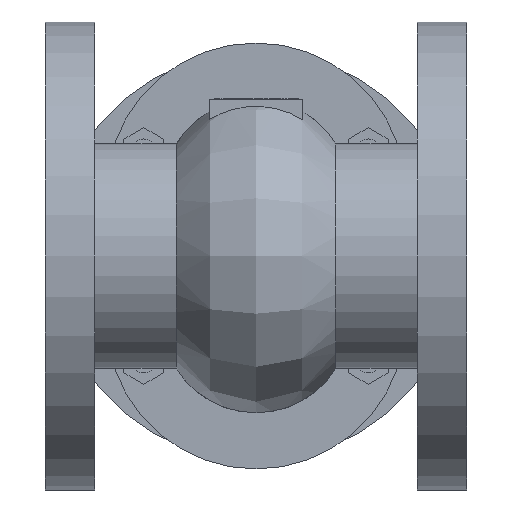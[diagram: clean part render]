
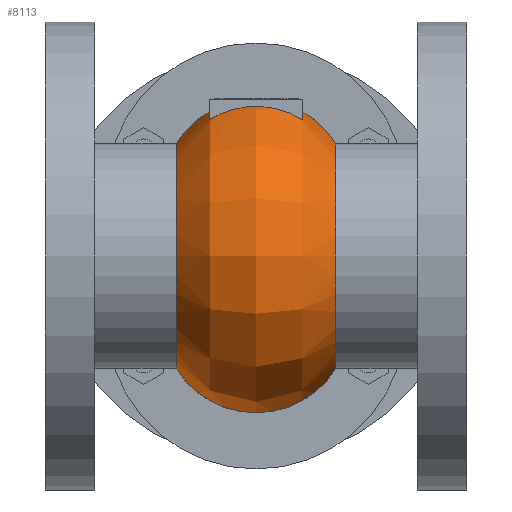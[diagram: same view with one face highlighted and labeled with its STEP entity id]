
A CAD part, front view. The second image highlights one B-rep face of the part: STEP entity #8113.
In plain terms, the highlighted free-form (B-spline) face has degree [2, 2] with [5, 5] control points.
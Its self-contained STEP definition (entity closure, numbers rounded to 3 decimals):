
#18=(
BOUNDED_SURFACE()
B_SPLINE_SURFACE(2,2,((#14042,#14043,#14044,#14045,#14046),(#14047,#14048,
#14049,#14050,#14051),(#14052,#14053,#14054,#14055,#14056),(#14057,#14058,
#14059,#14060,#14061),(#14062,#14063,#14064,#14065,#14066)),
 .UNSPECIFIED.,.F.,.F.,.F.)
B_SPLINE_SURFACE_WITH_KNOTS((3,2,3),(3,2,3),(-1.018,0.,1.018),
(-3.142,-1.571,0.),.UNSPECIFIED.)
GEOMETRIC_REPRESENTATION_ITEM()
RATIONAL_B_SPLINE_SURFACE(((1.,0.707,1.,0.707,1.),
(0.873,0.617,0.873,0.617,
0.873),(1.,0.707,1.,0.707,1.),(0.873,
0.617,0.873,0.617,0.873),
(1.,0.707,1.,0.707,1.)))
REPRESENTATION_ITEM('')
SURFACE()
);
#383=B_SPLINE_CURVE_WITH_KNOTS('',3,(#12908,#12909,#12910,#12911,#12912,
#12913,#12914,#12915,#12916,#12917,#12918,#12919,#12920,#12921),
 .UNSPECIFIED.,.F.,.F.,(4,2,2,2,2,2,4),(22.367,22.926,
23.641,24.356,25.071,25.785,26.344),
 .UNSPECIFIED.);
#1039=FACE_OUTER_BOUND('',#1513,.T.);
#1513=EDGE_LOOP('',(#7030,#7031,#7032,#7033,#7034,#7035,#7036,#7037,#7038,
#7039));
#3074=CIRCLE('',#8329,61.641);
#3076=CIRCLE('',#8334,61.641);
#3077=CIRCLE('',#8337,40.);
#3079=CIRCLE('',#8339,40.);
#3170=CIRCLE('',#8625,48.);
#3171=CIRCLE('',#8626,48.);
#3172=CIRCLE('',#8627,40.);
#3173=CIRCLE('',#8628,48.);
#3174=CIRCLE('',#8629,48.);
#3576=VERTEX_POINT('',#12901);
#3577=VERTEX_POINT('',#12903);
#3578=VERTEX_POINT('',#12907);
#3580=VERTEX_POINT('',#12928);
#3581=VERTEX_POINT('',#12933);
#3586=VERTEX_POINT('',#12952);
#3893=VERTEX_POINT('',#14067);
#3894=VERTEX_POINT('',#14069);
#3895=VERTEX_POINT('',#14071);
#3896=VERTEX_POINT('',#14073);
#4486=EDGE_CURVE('',#3577,#3576,#3074,.T.);
#4488=EDGE_CURVE('',#3578,#3577,#383,.T.);
#4493=EDGE_CURVE('',#3580,#3578,#3076,.T.);
#4494=EDGE_CURVE('',#3580,#3581,#3077,.T.);
#4500=EDGE_CURVE('',#3586,#3576,#3079,.T.);
#4964=EDGE_CURVE('',#3893,#3586,#3170,.T.);
#4965=EDGE_CURVE('',#3894,#3893,#3171,.T.);
#4966=EDGE_CURVE('',#3895,#3894,#3172,.T.);
#4967=EDGE_CURVE('',#3896,#3895,#3173,.T.);
#4968=EDGE_CURVE('',#3581,#3896,#3174,.T.);
#7030=ORIENTED_EDGE('',*,*,#4486,.T.);
#7031=ORIENTED_EDGE('',*,*,#4500,.F.);
#7032=ORIENTED_EDGE('',*,*,#4964,.F.);
#7033=ORIENTED_EDGE('',*,*,#4965,.F.);
#7034=ORIENTED_EDGE('',*,*,#4966,.F.);
#7035=ORIENTED_EDGE('',*,*,#4967,.F.);
#7036=ORIENTED_EDGE('',*,*,#4968,.F.);
#7037=ORIENTED_EDGE('',*,*,#4494,.F.);
#7038=ORIENTED_EDGE('',*,*,#4493,.T.);
#7039=ORIENTED_EDGE('',*,*,#4488,.T.);
#8113=ADVANCED_FACE('',(#1039),#18,.F.);
#8329=AXIS2_PLACEMENT_3D('',#12904,#9364,#9365);
#8334=AXIS2_PLACEMENT_3D('',#12930,#9378,#9379);
#8337=AXIS2_PLACEMENT_3D('',#12934,#9384,#9385);
#8339=AXIS2_PLACEMENT_3D('',#12963,#9390,#9391);
#8625=AXIS2_PLACEMENT_3D('',#14068,#10307,#10308);
#8626=AXIS2_PLACEMENT_3D('',#14070,#10309,#10310);
#8627=AXIS2_PLACEMENT_3D('',#14072,#10311,#10312);
#8628=AXIS2_PLACEMENT_3D('',#14074,#10313,#10314);
#8629=AXIS2_PLACEMENT_3D('',#14075,#10315,#10316);
#9364=DIRECTION('center_axis',(-1.,0.,0.));
#9365=DIRECTION('ref_axis',(0.,0.,-1.));
#9378=DIRECTION('center_axis',(1.,0.,0.));
#9379=DIRECTION('ref_axis',(0.,0.,-1.));
#9384=DIRECTION('center_axis',(0.,1.,0.));
#9385=DIRECTION('ref_axis',(1.,0.,0.));
#9390=DIRECTION('center_axis',(0.,1.,0.));
#9391=DIRECTION('ref_axis',(1.,0.,0.));
#10307=DIRECTION('center_axis',(-1.,0.,0.));
#10308=DIRECTION('ref_axis',(0.,1.,0.));
#10309=DIRECTION('center_axis',(-1.,0.,0.));
#10310=DIRECTION('ref_axis',(0.,1.,0.));
#10311=DIRECTION('center_axis',(0.,1.,0.));
#10312=DIRECTION('ref_axis',(-1.,0.,0.));
#10313=DIRECTION('center_axis',(1.,0.,0.));
#10314=DIRECTION('ref_axis',(0.,1.,0.));
#10315=DIRECTION('center_axis',(1.,0.,0.));
#10316=DIRECTION('ref_axis',(0.,1.,0.));
#12901=CARTESIAN_POINT('',(-212.672,-101.374,61.641));
#12903=CARTESIAN_POINT('',(-212.672,-121.374,58.306));
#12904=CARTESIAN_POINT('Origin',(-212.672,-101.374,0.));
#12907=CARTESIAN_POINT('',(-172.672,-121.374,58.306));
#12908=CARTESIAN_POINT('Ctrl Pts',(-172.672,-121.374,
58.306));
#12909=CARTESIAN_POINT('Ctrl Pts',(-174.398,-121.374,
59.36));
#12910=CARTESIAN_POINT('Ctrl Pts',(-176.184,-121.374,
60.259));
#12911=CARTESIAN_POINT('Ctrl Pts',(-180.102,-121.374,
61.897));
#12912=CARTESIAN_POINT('Ctrl Pts',(-182.594,-121.374,
62.683));
#12913=CARTESIAN_POINT('Ctrl Pts',(-187.687,-121.374,
63.707));
#12914=CARTESIAN_POINT('Ctrl Pts',(-190.289,-121.374,
63.945));
#12915=CARTESIAN_POINT('Ctrl Pts',(-195.055,-121.374,
63.945));
#12916=CARTESIAN_POINT('Ctrl Pts',(-197.657,-121.374,
63.707));
#12917=CARTESIAN_POINT('Ctrl Pts',(-202.75,-121.374,
62.683));
#12918=CARTESIAN_POINT('Ctrl Pts',(-205.242,-121.374,61.897));
#12919=CARTESIAN_POINT('Ctrl Pts',(-209.16,-121.374,
60.259));
#12920=CARTESIAN_POINT('Ctrl Pts',(-210.946,-121.374,
59.36));
#12921=CARTESIAN_POINT('Ctrl Pts',(-212.672,-121.374,
58.306));
#12928=CARTESIAN_POINT('',(-172.672,-101.374,61.641));
#12930=CARTESIAN_POINT('Origin',(-172.672,-101.374,0.));
#12933=CARTESIAN_POINT('',(-158.628,-101.374,48.));
#12934=CARTESIAN_POINT('Origin',(-192.672,-101.374,27.));
#12952=CARTESIAN_POINT('',(-226.716,-101.374,48.));
#12963=CARTESIAN_POINT('Origin',(-192.672,-101.374,27.));
#14042=CARTESIAN_POINT('Ctrl Pts',(-226.716,-101.374,
48.));
#14043=CARTESIAN_POINT('Ctrl Pts',(-226.716,-149.374,
48.));
#14044=CARTESIAN_POINT('Ctrl Pts',(-226.716,-149.374,
0.));
#14045=CARTESIAN_POINT('Ctrl Pts',(-226.716,-149.374,
-48.));
#14046=CARTESIAN_POINT('Ctrl Pts',(-226.716,-101.374,
-48.));
#14047=CARTESIAN_POINT('Ctrl Pts',(-214.996,-101.374,
67.));
#14048=CARTESIAN_POINT('Ctrl Pts',(-214.996,-168.374,
67.));
#14049=CARTESIAN_POINT('Ctrl Pts',(-214.996,-168.374,
0.));
#14050=CARTESIAN_POINT('Ctrl Pts',(-214.996,-168.374,
-67.));
#14051=CARTESIAN_POINT('Ctrl Pts',(-214.996,-101.374,
-67.));
#14052=CARTESIAN_POINT('Ctrl Pts',(-192.672,-101.374,
67.));
#14053=CARTESIAN_POINT('Ctrl Pts',(-192.672,-168.374,
67.));
#14054=CARTESIAN_POINT('Ctrl Pts',(-192.672,-168.374,
0.));
#14055=CARTESIAN_POINT('Ctrl Pts',(-192.672,-168.374,
-67.));
#14056=CARTESIAN_POINT('Ctrl Pts',(-192.672,-101.374,
-67.));
#14057=CARTESIAN_POINT('Ctrl Pts',(-170.348,-101.374,
67.));
#14058=CARTESIAN_POINT('Ctrl Pts',(-170.348,-168.374,
67.));
#14059=CARTESIAN_POINT('Ctrl Pts',(-170.348,-168.374,
0.));
#14060=CARTESIAN_POINT('Ctrl Pts',(-170.348,-168.374,
-67.));
#14061=CARTESIAN_POINT('Ctrl Pts',(-170.348,-101.374,
-67.));
#14062=CARTESIAN_POINT('Ctrl Pts',(-158.628,-101.374,
48.));
#14063=CARTESIAN_POINT('Ctrl Pts',(-158.628,-149.374,
48.));
#14064=CARTESIAN_POINT('Ctrl Pts',(-158.628,-149.374,
0.));
#14065=CARTESIAN_POINT('Ctrl Pts',(-158.628,-149.374,
-48.));
#14066=CARTESIAN_POINT('Ctrl Pts',(-158.628,-101.374,
-48.));
#14067=CARTESIAN_POINT('',(-226.716,-149.374,0.));
#14068=CARTESIAN_POINT('Origin',(-226.716,-101.374,0.));
#14069=CARTESIAN_POINT('',(-226.716,-101.374,-48.));
#14070=CARTESIAN_POINT('Origin',(-226.716,-101.374,0.));
#14071=CARTESIAN_POINT('',(-158.628,-101.374,-48.));
#14072=CARTESIAN_POINT('Origin',(-192.672,-101.374,-27.));
#14073=CARTESIAN_POINT('',(-158.628,-149.374,0.));
#14074=CARTESIAN_POINT('Origin',(-158.628,-101.374,0.));
#14075=CARTESIAN_POINT('Origin',(-158.628,-101.374,0.));
